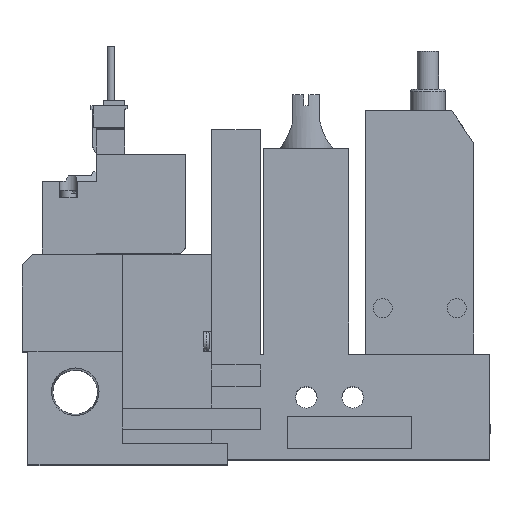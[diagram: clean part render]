
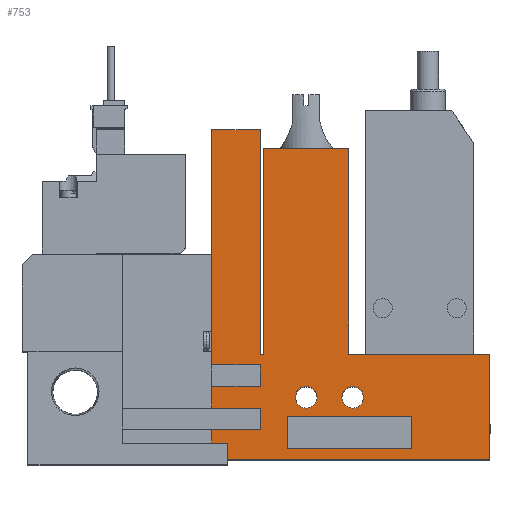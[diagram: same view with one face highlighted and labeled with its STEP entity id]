
A CAD part, top view. The second image highlights one B-rep face of the part: STEP entity #753.
In plain terms, the highlighted planar face has unit normal (0, 0, 1).
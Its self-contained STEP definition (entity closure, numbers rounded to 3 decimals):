
#753=ADVANCED_FACE('',(#1546,#1547,#1548,#1549),#1550,.T.);
#1546=FACE_OUTER_BOUND('',#2522,.T.);
#1547=FACE_BOUND('',#2523,.T.);
#1548=FACE_BOUND('',#2524,.T.);
#1549=FACE_BOUND('',#2525,.T.);
#1550=PLANE('',#2526);
#2522=EDGE_LOOP('',(#5357,#5358,#5359,#5360,#5361,#5362,#5363,#5364,#5365,#5366,#5367,#5368,#5369,#5370,#5371,#5372,#5373,#5374));
#2523=EDGE_LOOP('',(#5375,#5376,#5377,#5378));
#2524=EDGE_LOOP('',(#5379));
#2525=EDGE_LOOP('',(#5380));
#2526=AXIS2_PLACEMENT_3D('',#5381,#5382,#5383);
#5357=ORIENTED_EDGE('',*,*,#6944,.T.);
#5358=ORIENTED_EDGE('',*,*,#6921,.T.);
#5359=ORIENTED_EDGE('',*,*,#6916,.T.);
#5360=ORIENTED_EDGE('',*,*,#6918,.T.);
#5361=ORIENTED_EDGE('',*,*,#6886,.T.);
#5362=ORIENTED_EDGE('',*,*,#6978,.T.);
#5363=ORIENTED_EDGE('',*,*,#6909,.T.);
#5364=ORIENTED_EDGE('',*,*,#6976,.T.);
#5365=ORIENTED_EDGE('',*,*,#6895,.T.);
#5366=ORIENTED_EDGE('',*,*,#6982,.T.);
#5367=ORIENTED_EDGE('',*,*,#6968,.T.);
#5368=ORIENTED_EDGE('',*,*,#6965,.T.);
#5369=ORIENTED_EDGE('',*,*,#6962,.T.);
#5370=ORIENTED_EDGE('',*,*,#6959,.T.);
#5371=ORIENTED_EDGE('',*,*,#6956,.T.);
#5372=ORIENTED_EDGE('',*,*,#6953,.T.);
#5373=ORIENTED_EDGE('',*,*,#6950,.T.);
#5374=ORIENTED_EDGE('',*,*,#6947,.T.);
#5375=ORIENTED_EDGE('',*,*,#6932,.T.);
#5376=ORIENTED_EDGE('',*,*,#6933,.T.);
#5377=ORIENTED_EDGE('',*,*,#6928,.T.);
#5378=ORIENTED_EDGE('',*,*,#6930,.T.);
#5379=ORIENTED_EDGE('',*,*,#6902,.T.);
#5380=ORIENTED_EDGE('',*,*,#6900,.T.);
#5381=CARTESIAN_POINT('',(0.0,0.0,10.0));
#5382=DIRECTION('',(0.0,0.0,1.0));
#5383=DIRECTION('',(1.0,0.0,0.0));
#6886=EDGE_CURVE('',#8436,#8434,#8437,.T.);
#6895=EDGE_CURVE('',#8448,#8452,#8454,.T.);
#6900=EDGE_CURVE('',#8462,#8462,#8463,.T.);
#6902=EDGE_CURVE('',#8466,#8466,#8467,.T.);
#6909=EDGE_CURVE('',#8476,#8478,#8480,.T.);
#6916=EDGE_CURVE('',#8489,#8491,#8493,.T.);
#6918=EDGE_CURVE('',#8491,#8436,#8495,.T.);
#6921=EDGE_CURVE('',#8496,#8489,#8500,.T.);
#6928=EDGE_CURVE('',#8509,#8511,#8513,.T.);
#6930=EDGE_CURVE('',#8511,#8514,#8516,.T.);
#6932=EDGE_CURVE('',#8514,#8517,#8519,.T.);
#6933=EDGE_CURVE('',#8517,#8509,#8520,.T.);
#6944=EDGE_CURVE('',#8538,#8496,#8539,.T.);
#6947=EDGE_CURVE('',#8543,#8538,#8544,.T.);
#6950=EDGE_CURVE('',#8548,#8543,#8549,.T.);
#6953=EDGE_CURVE('',#8553,#8548,#8554,.T.);
#6956=EDGE_CURVE('',#8558,#8553,#8559,.T.);
#6959=EDGE_CURVE('',#8563,#8558,#8564,.T.);
#6962=EDGE_CURVE('',#8568,#8563,#8569,.T.);
#6965=EDGE_CURVE('',#8573,#8568,#8574,.T.);
#6968=EDGE_CURVE('',#8578,#8573,#8579,.T.);
#6976=EDGE_CURVE('',#8478,#8448,#8589,.T.);
#6978=EDGE_CURVE('',#8434,#8476,#8591,.T.);
#6982=EDGE_CURVE('',#8452,#8578,#8596,.T.);
#8434=VERTEX_POINT('',#10909);
#8436=VERTEX_POINT('',#10912);
#8437=LINE('',#10913,#10914);
#8448=VERTEX_POINT('',#10930);
#8452=VERTEX_POINT('',#10936);
#8454=LINE('',#10939,#10940);
#8462=VERTEX_POINT('',#10951);
#8463=CIRCLE('',#10952,2.0);
#8466=VERTEX_POINT('',#10955);
#8467=CIRCLE('',#10956,2.0);
#8476=VERTEX_POINT('',#10969);
#8478=VERTEX_POINT('',#10972);
#8480=LINE('',#10975,#10976);
#8489=VERTEX_POINT('',#10989);
#8491=VERTEX_POINT('',#10992);
#8493=LINE('',#10995,#10996);
#8495=LINE('',#10999,#11000);
#8496=VERTEX_POINT('',#11001);
#8500=LINE('',#11007,#11008);
#8509=VERTEX_POINT('',#11021);
#8511=VERTEX_POINT('',#11024);
#8513=LINE('',#11027,#11028);
#8514=VERTEX_POINT('',#11029);
#8516=LINE('',#11032,#11033);
#8517=VERTEX_POINT('',#11034);
#8519=LINE('',#11037,#11038);
#8520=LINE('',#11039,#11040);
#8538=VERTEX_POINT('',#11068);
#8539=LINE('',#11069,#11070);
#8543=VERTEX_POINT('',#11076);
#8544=LINE('',#11077,#11078);
#8548=VERTEX_POINT('',#11084);
#8549=LINE('',#11085,#11086);
#8553=VERTEX_POINT('',#11092);
#8554=LINE('',#11093,#11094);
#8558=VERTEX_POINT('',#11100);
#8559=LINE('',#11101,#11102);
#8563=VERTEX_POINT('',#11108);
#8564=LINE('',#11109,#11110);
#8568=VERTEX_POINT('',#11116);
#8569=LINE('',#11117,#11118);
#8573=VERTEX_POINT('',#11124);
#8574=LINE('',#11125,#11126);
#8578=VERTEX_POINT('',#11132);
#8579=LINE('',#11133,#11134);
#8589=LINE('',#11151,#11152);
#8591=LINE('',#11155,#11156);
#8596=LINE('',#11164,#11165);
#10909=CARTESIAN_POINT('',(35.1,9.5,10.0));
#10912=CARTESIAN_POINT('',(35.1,13.5,10.0));
#10913=CARTESIAN_POINT('',(35.1,0.0,10.0));
#10914=VECTOR('',#12693,1.0);
#10930=CARTESIAN_POINT('',(35.1,5.5,10.0));
#10936=CARTESIAN_POINT('',(35.1,0.0,10.0));
#10939=CARTESIAN_POINT('',(35.1,0.0,10.0));
#10940=VECTOR('',#12702,1.0);
#10951=CARTESIAN_POINT('',(63.2,11.5,10.0));
#10952=AXIS2_PLACEMENT_3D('',#12709,#12710,#12711);
#10955=CARTESIAN_POINT('',(54.6,11.5,10.0));
#10956=AXIS2_PLACEMENT_3D('',#12715,#12716,#12717);
#10969=CARTESIAN_POINT('',(44.1,9.5,10.0));
#10972=CARTESIAN_POINT('',(44.1,5.5,10.0));
#10975=CARTESIAN_POINT('',(44.1,0.0,10.0));
#10976=VECTOR('',#12724,1.0);
#10989=CARTESIAN_POINT('',(44.1,17.5,10.0));
#10992=CARTESIAN_POINT('',(44.1,13.5,10.0));
#10995=CARTESIAN_POINT('',(44.1,0.0,10.0));
#10996=VECTOR('',#12731,1.0);
#10999=CARTESIAN_POINT('',(0.0,13.5,10.0));
#11000=VECTOR('',#12733,1.0);
#11001=CARTESIAN_POINT('',(35.1,17.5,10.0));
#11007=CARTESIAN_POINT('',(0.0,17.5,10.0));
#11008=VECTOR('',#12736,1.0);
#11021=CARTESIAN_POINT('',(72.1,8.0,10.0));
#11024=CARTESIAN_POINT('',(72.1,2.0,10.0));
#11027=CARTESIAN_POINT('',(72.1,0.0,10.0));
#11028=VECTOR('',#12743,1.0);
#11029=CARTESIAN_POINT('',(49.1,2.0,10.0));
#11032=CARTESIAN_POINT('',(0.0,2.0,10.0));
#11033=VECTOR('',#12745,1.0);
#11034=CARTESIAN_POINT('',(49.1,8.0,10.0));
#11037=CARTESIAN_POINT('',(49.1,0.0,10.0));
#11038=VECTOR('',#12747,1.0);
#11039=CARTESIAN_POINT('',(0.0,8.0,10.0));
#11040=VECTOR('',#12748,1.0);
#11068=CARTESIAN_POINT('',(35.1,61.0,10.0));
#11069=CARTESIAN_POINT('',(35.1,61.0,10.0));
#11070=VECTOR('',#12759,1.0);
#11076=CARTESIAN_POINT('',(44.1,61.0,10.0));
#11077=CARTESIAN_POINT('',(44.1,61.0,10.0));
#11078=VECTOR('',#12762,1.0);
#11084=CARTESIAN_POINT('',(44.1,19.5,10.0));
#11085=CARTESIAN_POINT('',(44.1,19.5,10.0));
#11086=VECTOR('',#12765,1.0);
#11092=CARTESIAN_POINT('',(44.75,19.5,10.0));
#11093=CARTESIAN_POINT('',(44.75,19.5,10.0));
#11094=VECTOR('',#12768,1.0);
#11100=CARTESIAN_POINT('',(44.75,57.5,10.0));
#11101=CARTESIAN_POINT('',(44.75,57.5,10.0));
#11102=VECTOR('',#12771,1.0);
#11108=CARTESIAN_POINT('',(60.45,57.5,10.0));
#11109=CARTESIAN_POINT('',(60.45,57.5,10.0));
#11110=VECTOR('',#12774,1.0);
#11116=CARTESIAN_POINT('',(60.45,19.5,10.0));
#11117=CARTESIAN_POINT('',(60.45,19.5,10.0));
#11118=VECTOR('',#12777,1.0);
#11124=CARTESIAN_POINT('',(86.6,19.5,10.0));
#11125=CARTESIAN_POINT('',(86.6,19.5,10.0));
#11126=VECTOR('',#12780,1.0);
#11132=CARTESIAN_POINT('',(86.6,0.0,10.0));
#11133=CARTESIAN_POINT('',(86.6,0.0,10.0));
#11134=VECTOR('',#12783,1.0);
#11151=CARTESIAN_POINT('',(0.0,5.5,10.0));
#11152=VECTOR('',#12791,1.0);
#11155=CARTESIAN_POINT('',(0.0,9.5,10.0));
#11156=VECTOR('',#12793,1.0);
#11164=CARTESIAN_POINT('',(18.6,0.0,10.0));
#11165=VECTOR('',#12797,1.0);
#12693=DIRECTION('',(0.0,-1.0,0.0));
#12702=DIRECTION('',(0.0,-1.0,0.0));
#12709=CARTESIAN_POINT('',(61.2,11.5,10.0));
#12710=DIRECTION('',(0.0,0.0,-1.0));
#12711=DIRECTION('',(1.0,0.0,0.0));
#12715=CARTESIAN_POINT('',(52.6,11.5,10.0));
#12716=DIRECTION('',(0.0,0.0,-1.0));
#12717=DIRECTION('',(1.0,0.0,0.0));
#12724=DIRECTION('',(0.0,-1.0,0.0));
#12731=DIRECTION('',(0.0,-1.0,0.0));
#12733=DIRECTION('',(-1.0,0.0,0.0));
#12736=DIRECTION('',(1.0,0.0,0.0));
#12743=DIRECTION('',(0.0,-1.0,0.0));
#12745=DIRECTION('',(-1.0,0.0,0.0));
#12747=DIRECTION('',(0.0,1.0,0.0));
#12748=DIRECTION('',(1.0,0.0,0.0));
#12759=DIRECTION('',(0.0,-1.0,0.0));
#12762=DIRECTION('',(-1.0,0.0,0.0));
#12765=DIRECTION('',(0.0,1.0,0.0));
#12768=DIRECTION('',(-1.0,0.0,0.0));
#12771=DIRECTION('',(0.0,-1.0,0.0));
#12774=DIRECTION('',(-1.0,0.0,0.0));
#12777=DIRECTION('',(0.0,1.0,0.0));
#12780=DIRECTION('',(-1.0,0.0,0.0));
#12783=DIRECTION('',(0.0,1.0,0.0));
#12791=DIRECTION('',(-1.0,0.0,0.0));
#12793=DIRECTION('',(1.0,0.0,0.0));
#12797=DIRECTION('',(1.0,0.0,0.0));
